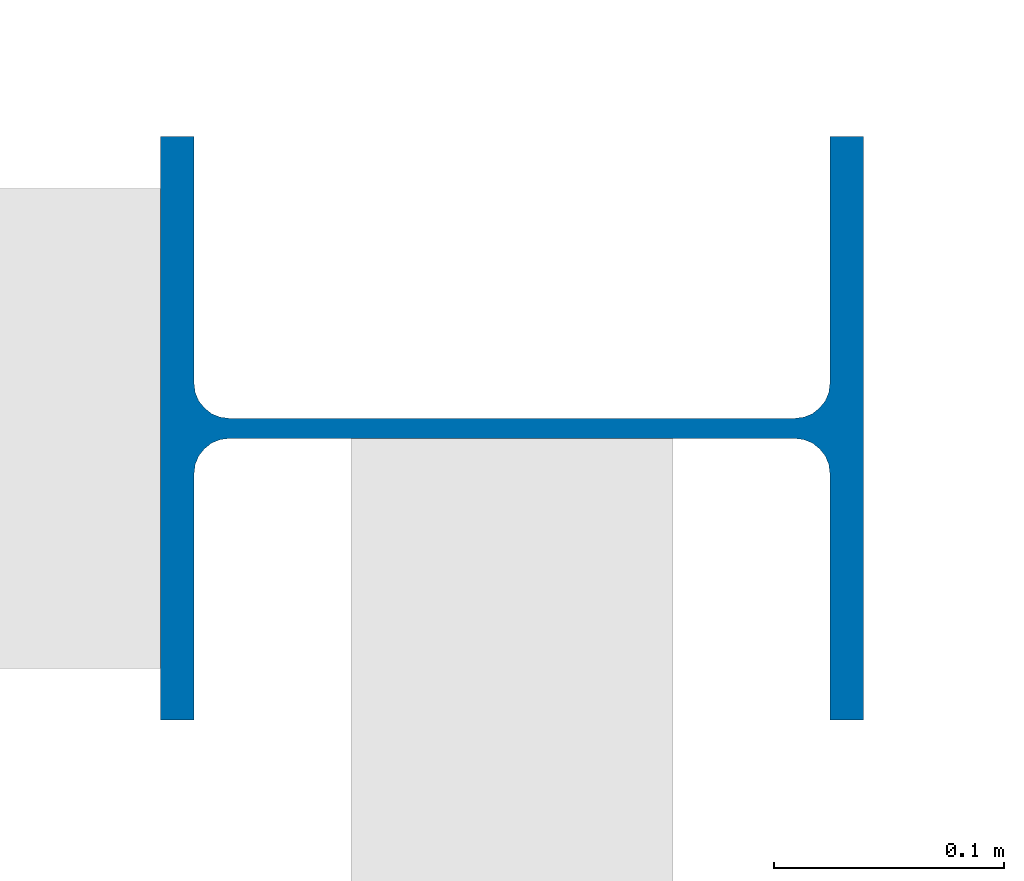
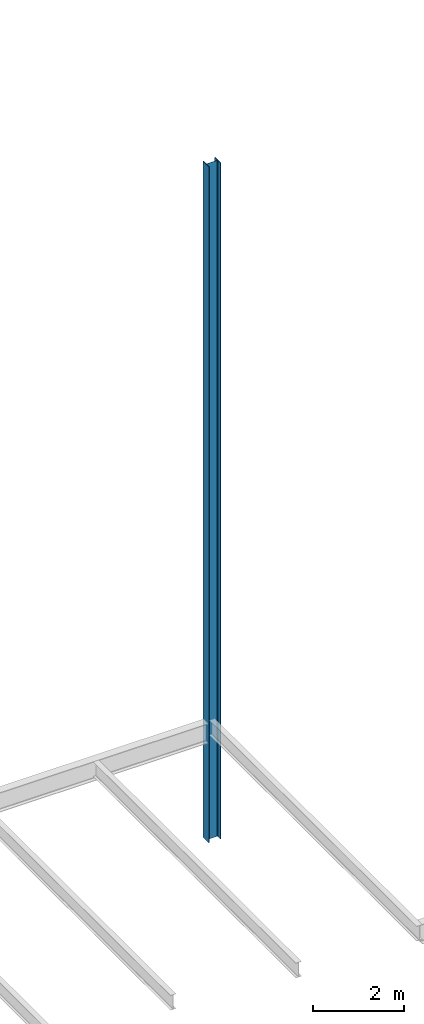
# One storey, part 3 of 26: 1 column.
"""IFC2X3 building model written with IfcOpenShell, lengths in millimetres."""

from ifc_helpers import new_model, si_unit, origin, place, context, project, spatial, faceted_brep, material, element, save


model = new_model("IFC2X3")

# Units and contexts
context_of_model = context(None, 3, precision=1e-05, world=origin())
ifc_project = project(units=[si_unit("LENGTHUNIT", "METRE", prefix="MILLI")], contexts=[context_of_model])

# Building, storey
building = spatial("IfcBuilding", under=ifc_project, Name="Building", CompositionType="ELEMENT")
storey = spatial("IfcBuildingStorey", under=building, Name="FL4-FRM", CompositionType="ELEMENT")

# Column
ifc_material = material(Name="A992")
column_placement = place(None, origin())
element("IfcColumn", 1, at=column_placement, inside=storey, material=ifc_material, Name="Column655", context=context_of_model, shape_type="Brep", body=[
    faceted_brep([(12153.0, 35873.0, 10194.2), (12153.0, 36127.0, 10194.2), (12153.0, 36127.0, 28300.0), (12153.0, 35873.0, 28300.0), (12138.4, 36127.0, 10194.2), (12138.4, 36127.0, 28300.0), (12138.4, 36019.6, 10194.2), (12138.4, 36019.6, 28300.0), (12137.9, 36015.7, 10194.2), (12137.9, 36015.7, 28300.0), (12136.4, 36012.0, 10194.2), (12136.4, 36012.0, 28300.0), (12133.9, 36008.9, 10194.2), (12133.9, 36008.9, 28300.0), (12130.8, 36006.4, 10194.2), (12130.8, 36006.4, 28300.0), (12127.1, 36004.9, 10194.2), (12127.1, 36004.9, 28300.0), (12123.2, 36004.4, 10194.2), (12123.2, 36004.4, 28300.0), (11876.8, 36004.4, 10194.2), (11876.8, 36004.4, 28300.0), (11872.9, 36004.9, 10194.2), (11872.9, 36004.9, 28300.0), (11869.2, 36006.4, 10194.2), (11869.2, 36006.4, 28300.0), (11866.1, 36008.9, 10194.2), (11866.1, 36008.9, 28300.0), (11863.6, 36012.0, 10194.2), (11863.6, 36012.0, 28300.0), (11862.1, 36015.7, 10194.2), (11862.1, 36015.7, 28300.0), (11861.6, 36019.6, 10194.2), (11861.6, 36019.6, 28300.0), (11861.6, 36127.0, 10194.2), (11861.6, 36127.0, 28300.0), (11847.0, 36127.0, 10194.2), (11847.0, 36127.0, 28300.0), (11847.0, 35873.0, 10194.2), (11847.0, 35873.0, 28300.0), (11861.6, 35873.0, 10194.2), (11861.6, 35873.0, 28300.0), (11861.6, 35980.4, 10194.2), (11861.6, 35980.4, 28300.0), (11862.1, 35984.3, 10194.2), (11862.1, 35984.3, 28300.0), (11863.6, 35988.0, 10194.2), (11863.6, 35988.0, 28300.0), (11866.1, 35991.1, 10194.2), (11866.1, 35991.1, 28300.0), (11869.2, 35993.6, 10194.2), (11869.2, 35993.6, 28300.0), (11872.9, 35995.1, 10194.2), (11872.9, 35995.1, 28300.0), (11876.8, 35995.6, 10194.2), (11876.8, 35995.6, 28300.0), (12123.2, 35995.6, 10194.2), (12123.2, 35995.6, 28300.0), (12127.1, 35995.1, 10194.2), (12127.1, 35995.1, 28300.0), (12130.8, 35993.6, 10194.2), (12130.8, 35993.6, 28300.0), (12133.9, 35991.1, 10194.2), (12133.9, 35991.1, 28300.0), (12136.4, 35988.0, 10194.2), (12136.4, 35988.0, 28300.0), (12137.9, 35984.3, 10194.2), (12137.9, 35984.3, 28300.0), (12138.4, 35980.4, 10194.2), (12138.4, 35980.4, 28300.0), (12138.4, 35873.0, 10194.2), (12138.4, 35873.0, 28300.0)], [[[0, 1, 2, 3]], [[1, 4, 5, 2]], [[4, 6, 7, 5]], [[6, 8, 9, 7]], [[8, 10, 11, 9]], [[10, 12, 13, 11]], [[12, 14, 15, 13]], [[14, 16, 17, 15]], [[16, 18, 19, 17]], [[18, 20, 21, 19]], [[20, 22, 23, 21]], [[22, 24, 25, 23]], [[24, 26, 27, 25]], [[26, 28, 29, 27]], [[28, 30, 31, 29]], [[30, 32, 33, 31]], [[32, 34, 35, 33]], [[34, 36, 37, 35]], [[36, 38, 39, 37]], [[38, 40, 41, 39]], [[40, 42, 43, 41]], [[42, 44, 45, 43]], [[44, 46, 47, 45]], [[46, 48, 49, 47]], [[48, 50, 51, 49]], [[50, 52, 53, 51]], [[52, 54, 55, 53]], [[54, 56, 57, 55]], [[56, 58, 59, 57]], [[58, 60, 61, 59]], [[60, 62, 63, 61]], [[62, 64, 65, 63]], [[64, 66, 67, 65]], [[66, 68, 69, 67]], [[68, 70, 71, 69]], [[70, 0, 3, 71]], [[0, 70, 68, 66, 64, 62, 60, 58, 56, 54, 52, 50, 48, 46, 44, 42, 40, 38, 36, 34, 32, 30, 28, 26, 24, 22, 20, 18, 16, 14, 12, 10, 8, 6, 4, 1]], [[3, 2, 5, 7, 9, 11, 13, 15, 17, 19, 21, 23, 25, 27, 29, 31, 33, 35, 37, 39, 41, 43, 45, 47, 49, 51, 53, 55, 57, 59, 61, 63, 65, 67, 69, 71]]]),
])

save(model, "model.ifc")
